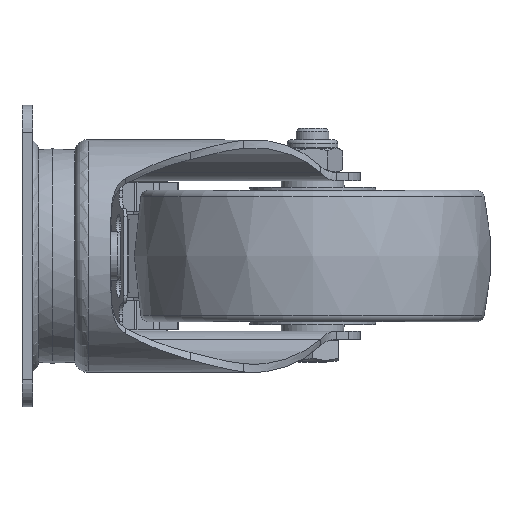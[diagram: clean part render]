
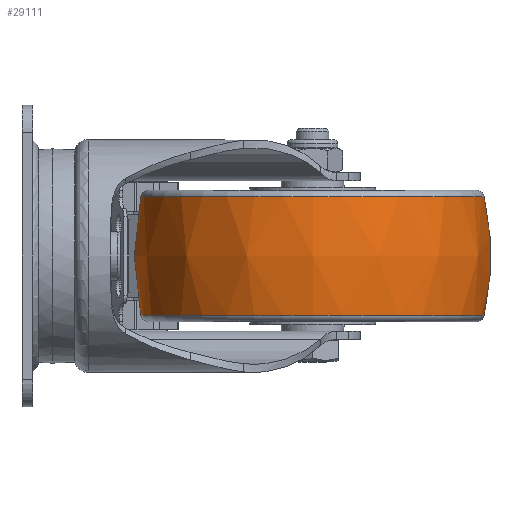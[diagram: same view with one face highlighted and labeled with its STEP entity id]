
A CAD part, left-side view. The second image highlights one B-rep face of the part: STEP entity #29111.
In plain terms, the highlighted free-form (B-spline) face has degree [2, 2] with [3, 9] control points.
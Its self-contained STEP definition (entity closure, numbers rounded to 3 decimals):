
#34=(
BOUNDED_SURFACE()
B_SPLINE_SURFACE(2,2,((#52667,#52668,#52669,#52670,#52671,#52672,#52673,
#52674,#52675),(#52676,#52677,#52678,#52679,#52680,#52681,#52682,#52683,
#52684),(#52685,#52686,#52687,#52688,#52689,#52690,#52691,#52692,#52693)),
 .UNSPECIFIED.,.F.,.T.,.F.)
B_SPLINE_SURFACE_WITH_KNOTS((3,3),(3,2,2,2,3),(-0.217,0.217),
(-3.142,-1.571,0.,1.571,3.142),
 .UNSPECIFIED.)
GEOMETRIC_REPRESENTATION_ITEM()
RATIONAL_B_SPLINE_SURFACE(((1.,0.707,1.,0.707,1.,
0.707,1.,0.707,1.),(0.977,0.691,
0.977,0.691,0.977,0.691,
0.977,0.691,0.977),(1.,0.707,
1.,0.707,1.,0.707,1.,0.707,1.)))
REPRESENTATION_ITEM('')
SURFACE()
);
#7479=FACE_OUTER_BOUND('',#9188,.T.);
#9188=EDGE_LOOP('',(#25498,#25499,#25500,#25501,#25502,#25503));
#10263=CIRCLE('',#31100,62.641);
#10266=CIRCLE('',#31103,62.641);
#10267=CIRCLE('',#31104,100.5);
#10268=CIRCLE('',#31105,62.641);
#10269=CIRCLE('',#31106,62.641);
#13630=VERTEX_POINT('',#52660);
#13631=VERTEX_POINT('',#52661);
#13633=VERTEX_POINT('',#52694);
#13634=VERTEX_POINT('',#52696);
#17689=EDGE_CURVE('',#13630,#13631,#10263,.T.);
#17692=EDGE_CURVE('',#13631,#13630,#10266,.T.);
#17693=EDGE_CURVE('',#13630,#13633,#10267,.T.);
#17694=EDGE_CURVE('',#13634,#13633,#10268,.T.);
#17695=EDGE_CURVE('',#13633,#13634,#10269,.T.);
#25498=ORIENTED_EDGE('',*,*,#17689,.F.);
#25499=ORIENTED_EDGE('',*,*,#17693,.T.);
#25500=ORIENTED_EDGE('',*,*,#17694,.F.);
#25501=ORIENTED_EDGE('',*,*,#17695,.F.);
#25502=ORIENTED_EDGE('',*,*,#17693,.F.);
#25503=ORIENTED_EDGE('',*,*,#17692,.F.);
#29111=ADVANCED_FACE('',(#7479),#34,.F.);
#31100=AXIS2_PLACEMENT_3D('',#52662,#36448,#36449);
#31103=AXIS2_PLACEMENT_3D('',#52666,#36454,#36455);
#31104=AXIS2_PLACEMENT_3D('',#52695,#36456,#36457);
#31105=AXIS2_PLACEMENT_3D('',#52697,#36458,#36459);
#31106=AXIS2_PLACEMENT_3D('',#52698,#36460,#36461);
#36448=DIRECTION('center_axis',(0.,0.,
1.));
#36449=DIRECTION('ref_axis',(0.,1.,0.));
#36454=DIRECTION('center_axis',(0.,0.,
1.));
#36455=DIRECTION('ref_axis',(0.,1.,0.));
#36456=DIRECTION('center_axis',(1.,0.,0.));
#36457=DIRECTION('ref_axis',(0.,-1.,0.));
#36458=DIRECTION('center_axis',(0.,0.,
-1.));
#36459=DIRECTION('ref_axis',(0.,1.,0.));
#36460=DIRECTION('center_axis',(0.,0.,
-1.));
#36461=DIRECTION('ref_axis',(0.,1.,0.));
#52660=CARTESIAN_POINT('',(50.,-168.643,21.646));
#52661=CARTESIAN_POINT('',(50.,-43.36,21.646));
#52662=CARTESIAN_POINT('Origin',(50.,-106.001,21.646));
#52666=CARTESIAN_POINT('Origin',(50.,-106.001,21.646));
#52667=CARTESIAN_POINT('Ctrl Pts',(50.,-168.643,-21.646));
#52668=CARTESIAN_POINT('Ctrl Pts',(112.641,-168.643,-21.646));
#52669=CARTESIAN_POINT('Ctrl Pts',(112.641,-106.001,-21.646));
#52670=CARTESIAN_POINT('Ctrl Pts',(112.641,-43.36,-21.646));
#52671=CARTESIAN_POINT('Ctrl Pts',(50.,-43.36,-21.646));
#52672=CARTESIAN_POINT('Ctrl Pts',(-12.641,-43.36,
-21.646));
#52673=CARTESIAN_POINT('Ctrl Pts',(-12.641,-106.001,
-21.646));
#52674=CARTESIAN_POINT('Ctrl Pts',(-12.641,-168.643,
-21.646));
#52675=CARTESIAN_POINT('Ctrl Pts',(50.,-168.643,-21.646));
#52676=CARTESIAN_POINT('Ctrl Pts',(50.,-173.417,0.));
#52677=CARTESIAN_POINT('Ctrl Pts',(117.415,-173.417,0.));
#52678=CARTESIAN_POINT('Ctrl Pts',(117.415,-106.001,0.));
#52679=CARTESIAN_POINT('Ctrl Pts',(117.415,-38.586,0.));
#52680=CARTESIAN_POINT('Ctrl Pts',(50.,-38.586,0.));
#52681=CARTESIAN_POINT('Ctrl Pts',(-17.415,-38.586,0.));
#52682=CARTESIAN_POINT('Ctrl Pts',(-17.415,-106.001,0.));
#52683=CARTESIAN_POINT('Ctrl Pts',(-17.415,-173.417,0.));
#52684=CARTESIAN_POINT('Ctrl Pts',(50.,-173.417,0.));
#52685=CARTESIAN_POINT('Ctrl Pts',(50.,-168.643,21.646));
#52686=CARTESIAN_POINT('Ctrl Pts',(112.641,-168.643,21.646));
#52687=CARTESIAN_POINT('Ctrl Pts',(112.641,-106.001,21.646));
#52688=CARTESIAN_POINT('Ctrl Pts',(112.641,-43.36,21.646));
#52689=CARTESIAN_POINT('Ctrl Pts',(50.,-43.36,21.646));
#52690=CARTESIAN_POINT('Ctrl Pts',(-12.641,-43.36,
21.646));
#52691=CARTESIAN_POINT('Ctrl Pts',(-12.641,-106.001,
21.646));
#52692=CARTESIAN_POINT('Ctrl Pts',(-12.641,-168.643,
21.646));
#52693=CARTESIAN_POINT('Ctrl Pts',(50.,-168.643,21.646));
#52694=CARTESIAN_POINT('',(50.,-168.643,-21.646));
#52695=CARTESIAN_POINT('Origin',(50.,-70.501,0.));
#52696=CARTESIAN_POINT('',(50.,-43.36,-21.646));
#52697=CARTESIAN_POINT('Origin',(50.,-106.001,-21.646));
#52698=CARTESIAN_POINT('Origin',(50.,-106.001,-21.646));
